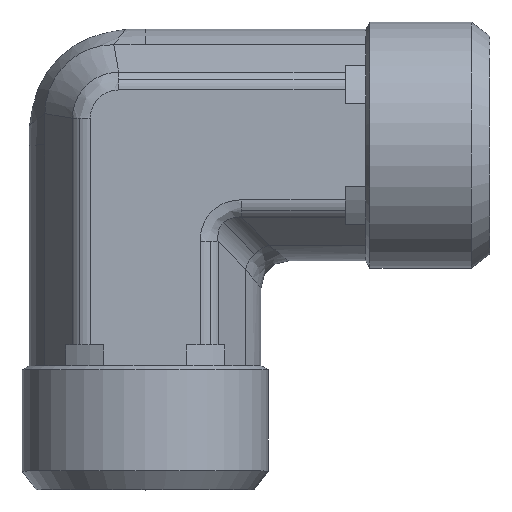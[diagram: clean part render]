
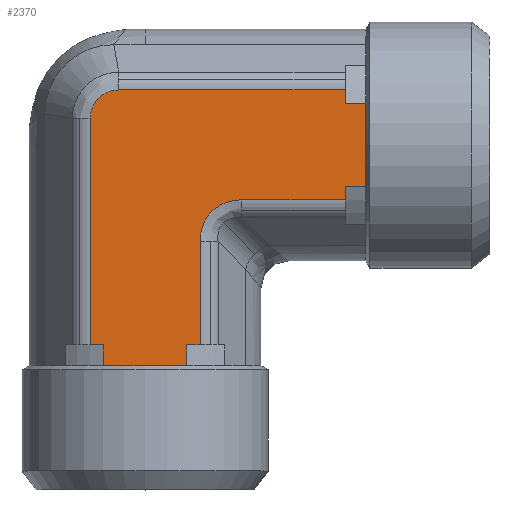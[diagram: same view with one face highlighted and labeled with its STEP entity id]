
A CAD part, top view. The second image highlights one B-rep face of the part: STEP entity #2370.
In plain terms, the highlighted planar face has unit normal (0, 0, 1) as drawn and (0, -1, 0) by its records, which use the part's own axes.
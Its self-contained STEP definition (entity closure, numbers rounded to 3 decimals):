
#361=CARTESIAN_POINT('',(2.515,-8.4,3.984));
#362=VERTEX_POINT('',#361);
#370=CARTESIAN_POINT('',(10.,-8.4,3.984));
#371=VERTEX_POINT('',#370);
#372=CARTESIAN_POINT('',(2.515,-8.4,3.984));
#373=DIRECTION('',(1.0,0.0,0.0));
#374=VECTOR('',#373,7.485);
#375=LINE('',#372,#374);
#376=EDGE_CURVE('',#362,#371,#375,.T.);
#485=CARTESIAN_POINT('',(-8.484,-8.4,-1.926));
#486=VERTEX_POINT('',#485);
#494=CARTESIAN_POINT('',(-8.484,-8.4,14.5));
#495=VERTEX_POINT('',#494);
#496=CARTESIAN_POINT('',(-8.484,-8.4,-1.926));
#497=DIRECTION('',(0.0,0.0,1.0));
#498=VECTOR('',#497,16.426);
#499=LINE('',#496,#498);
#500=EDGE_CURVE('',#486,#495,#499,.T.);
#692=CARTESIAN_POINT('',(11.5,-8.4,0.));
#693=VERTEX_POINT('',#692);
#1859=CARTESIAN_POINT('',(-0.516,-8.4,14.5));
#1860=VERTEX_POINT('',#1859);
#1861=CARTESIAN_POINT('',(-1.484,-8.4,14.5));
#1862=VERTEX_POINT('',#1861);
#1863=CARTESIAN_POINT('',(-0.516,-8.4,14.5));
#1864=DIRECTION('',(-1.0,0.0,0.0));
#1865=VECTOR('',#1864,0.968);
#1866=LINE('',#1863,#1865);
#1867=EDGE_CURVE('',#1860,#1862,#1866,.T.);
#1918=CARTESIAN_POINT('',(-7.516,-8.4,14.5));
#1919=VERTEX_POINT('',#1918);
#1920=CARTESIAN_POINT('',(-7.516,-8.4,14.5));
#1921=DIRECTION('',(-1.0,0.0,0.0));
#1922=VECTOR('',#1921,0.968);
#1923=LINE('',#1920,#1922);
#1924=EDGE_CURVE('',#1919,#495,#1923,.T.);
#1982=CARTESIAN_POINT('',(-7.516,-8.4,16.0));
#1983=VERTEX_POINT('',#1982);
#1984=CARTESIAN_POINT('',(-7.516,-8.4,16.0));
#1985=DIRECTION('',(0.0,0.0,-1.0));
#1986=VECTOR('',#1985,1.5);
#1987=LINE('',#1984,#1986);
#1988=EDGE_CURVE('',#1983,#1919,#1987,.T.);
#2005=CARTESIAN_POINT('',(-1.484,-8.4,16.0));
#2006=VERTEX_POINT('',#2005);
#2007=CARTESIAN_POINT('',(-1.484,-8.4,14.5));
#2008=DIRECTION('',(0.0,0.0,1.0));
#2009=VECTOR('',#2008,1.5);
#2010=LINE('',#2007,#2009);
#2011=EDGE_CURVE('',#1862,#2006,#2010,.T.);
#2244=CARTESIAN_POINT('',(-4.5,-8.4,16.0));
#2245=VERTEX_POINT('',#2244);
#2246=CARTESIAN_POINT('',(-4.5,-8.4,16.0));
#2247=DIRECTION('',(-1.0,0.0,0.0));
#2248=VECTOR('',#2247,3.016);
#2249=LINE('',#2246,#2248);
#2250=EDGE_CURVE('',#2245,#1983,#2249,.T.);
#2268=CARTESIAN_POINT('',(-4.5,-8.4,-3.175));
#2269=DIRECTION('',(0.0,-1.0,0.0));
#2270=DIRECTION('',(0.0,0.0,-1.0));
#2271=AXIS2_PLACEMENT_3D('',#2268,#2269,#2270);
#2272=PLANE('',#2271);
#2273=ORIENTED_EDGE('',*,*,#1988,.T.);
#2274=ORIENTED_EDGE('',*,*,#1924,.T.);
#2275=ORIENTED_EDGE('',*,*,#500,.F.);
#2276=CARTESIAN_POINT('',(-6.426,-8.4,-3.984));
#2277=VERTEX_POINT('',#2276);
#2278=CARTESIAN_POINT('',(-8.484,-8.4,-1.926));
#2279=CARTESIAN_POINT('',(-8.484,-8.4,-2.06));
#2280=CARTESIAN_POINT('',(-8.47,-8.4,-2.195));
#2281=CARTESIAN_POINT('',(-8.402,-8.4,-2.54));
#2282=CARTESIAN_POINT('',(-8.326,-8.4,-2.743));
#2283=CARTESIAN_POINT('',(-8.051,-8.4,-3.233));
#2284=CARTESIAN_POINT('',(-7.806,-8.4,-3.49));
#2285=CARTESIAN_POINT('',(-7.186,-8.4,-3.876));
#2286=CARTESIAN_POINT('',(-6.806,-8.4,-3.984));
#2287=CARTESIAN_POINT('',(-6.426,-8.4,-3.984));
#2288=B_SPLINE_CURVE_WITH_KNOTS('',3,(#2278,#2279,#2280,#2281,#2282,#2283,#2284,#2285,#2286,#2287),.UNSPECIFIED.,.F.,.U.,(4,2,2,2,4),(-3.216,-2.814,-2.171,-1.142,0.0),.UNSPECIFIED.);
#2289=EDGE_CURVE('',#2277,#486,#2288,.F.);
#2290=ORIENTED_EDGE('',*,*,#2289,.F.);
#2291=CARTESIAN_POINT('',(10.,-8.4,-3.984));
#2292=VERTEX_POINT('',#2291);
#2293=CARTESIAN_POINT('',(10.,-8.4,-3.984));
#2294=DIRECTION('',(-1.0,0.0,0.0));
#2295=VECTOR('',#2294,16.426);
#2296=LINE('',#2293,#2295);
#2297=EDGE_CURVE('',#2292,#2277,#2296,.T.);
#2298=ORIENTED_EDGE('',*,*,#2297,.F.);
#2299=CARTESIAN_POINT('',(10.,-8.4,-3.016));
#2300=VERTEX_POINT('',#2299);
#2301=CARTESIAN_POINT('',(10.,-8.4,-3.984));
#2302=DIRECTION('',(0.0,0.0,1.0));
#2303=VECTOR('',#2302,0.968);
#2304=LINE('',#2301,#2303);
#2305=EDGE_CURVE('',#2292,#2300,#2304,.T.);
#2306=ORIENTED_EDGE('',*,*,#2305,.T.);
#2307=CARTESIAN_POINT('',(11.5,-8.4,-3.016));
#2308=VERTEX_POINT('',#2307);
#2309=CARTESIAN_POINT('',(10.,-8.4,-3.016));
#2310=DIRECTION('',(1.0,0.0,0.0));
#2311=VECTOR('',#2310,1.5);
#2312=LINE('',#2309,#2311);
#2313=EDGE_CURVE('',#2300,#2308,#2312,.T.);
#2314=ORIENTED_EDGE('',*,*,#2313,.T.);
#2315=CARTESIAN_POINT('',(11.5,-8.4,-3.016));
#2316=DIRECTION('',(0.0,0.0,1.0));
#2317=VECTOR('',#2316,3.016);
#2318=LINE('',#2315,#2317);
#2319=EDGE_CURVE('',#2308,#693,#2318,.T.);
#2320=ORIENTED_EDGE('',*,*,#2319,.T.);
#2321=CARTESIAN_POINT('',(11.5,-8.4,3.016));
#2322=VERTEX_POINT('',#2321);
#2323=CARTESIAN_POINT('',(11.5,-8.4,0.));
#2324=DIRECTION('',(0.0,0.0,1.0));
#2325=VECTOR('',#2324,3.016);
#2326=LINE('',#2323,#2325);
#2327=EDGE_CURVE('',#693,#2322,#2326,.T.);
#2328=ORIENTED_EDGE('',*,*,#2327,.T.);
#2329=CARTESIAN_POINT('',(10.,-8.4,3.016));
#2330=VERTEX_POINT('',#2329);
#2331=CARTESIAN_POINT('',(11.5,-8.4,3.016));
#2332=DIRECTION('',(-1.0,0.0,0.0));
#2333=VECTOR('',#2332,1.5);
#2334=LINE('',#2331,#2333);
#2335=EDGE_CURVE('',#2322,#2330,#2334,.T.);
#2336=ORIENTED_EDGE('',*,*,#2335,.T.);
#2337=CARTESIAN_POINT('',(10.,-8.4,3.016));
#2338=DIRECTION('',(0.0,0.0,1.0));
#2339=VECTOR('',#2338,0.968);
#2340=LINE('',#2337,#2339);
#2341=EDGE_CURVE('',#2330,#371,#2340,.T.);
#2342=ORIENTED_EDGE('',*,*,#2341,.T.);
#2343=ORIENTED_EDGE('',*,*,#376,.F.);
#2344=CARTESIAN_POINT('',(-0.516,-8.4,7.015));
#2345=VERTEX_POINT('',#2344);
#2346=CARTESIAN_POINT('',(3.525,-8.4,8.025));
#2347=DIRECTION('',(0.,-1.,0.));
#2348=DIRECTION('',(-0.707,0.,-0.707));
#2349=AXIS2_PLACEMENT_3D('',#2346,#2347,#2348);
#2350=ELLIPSE('',#2349,4.518,3.5);
#2351=EDGE_CURVE('',#2345,#362,#2350,.T.);
#2352=ORIENTED_EDGE('',*,*,#2351,.F.);
#2353=CARTESIAN_POINT('',(-0.516,-8.4,14.5));
#2354=DIRECTION('',(0.0,0.0,-1.0));
#2355=VECTOR('',#2354,7.485);
#2356=LINE('',#2353,#2355);
#2357=EDGE_CURVE('',#1860,#2345,#2356,.T.);
#2358=ORIENTED_EDGE('',*,*,#2357,.F.);
#2359=ORIENTED_EDGE('',*,*,#1867,.T.);
#2360=ORIENTED_EDGE('',*,*,#2011,.T.);
#2361=CARTESIAN_POINT('',(-1.484,-8.4,16.0));
#2362=DIRECTION('',(-1.0,0.0,0.0));
#2363=VECTOR('',#2362,3.016);
#2364=LINE('',#2361,#2363);
#2365=EDGE_CURVE('',#2006,#2245,#2364,.T.);
#2366=ORIENTED_EDGE('',*,*,#2365,.T.);
#2367=ORIENTED_EDGE('',*,*,#2250,.T.);
#2368=EDGE_LOOP('',(#2273,#2274,#2275,#2290,#2298,#2306,#2314,#2320,#2328,#2336,#2342,#2343,#2352,#2358,#2359,#2360,#2366,#2367));
#2369=FACE_OUTER_BOUND('',#2368,.T.);
#2370=ADVANCED_FACE('',(#2369),#2272,.T.);
